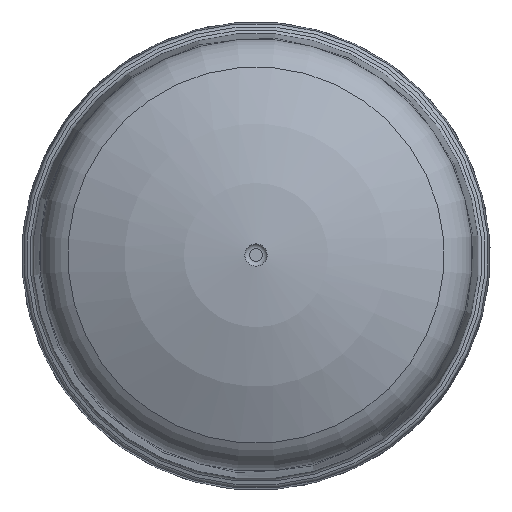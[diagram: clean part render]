
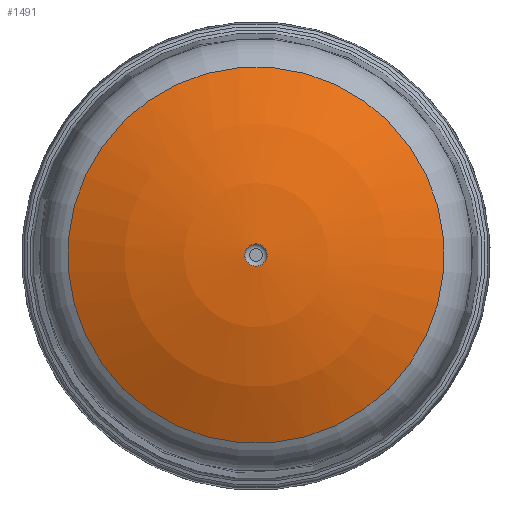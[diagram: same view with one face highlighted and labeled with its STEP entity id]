
A CAD part, top view. The second image highlights one B-rep face of the part: STEP entity #1491.
In plain terms, the highlighted spherical face has radius 85 mm.
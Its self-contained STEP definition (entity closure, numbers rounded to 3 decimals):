
#643=SPHERICAL_SURFACE('',#11293,85.);
#1491=ADVANCED_FACE('',(#2592,#2593),#643,.T.);
#2277=CIRCLE('',#11291,2.25);
#2278=CIRCLE('',#11292,38.185);
#2592=FACE_BOUND('',#3166,.T.);
#2593=FACE_BOUND('',#3167,.T.);
#3166=EDGE_LOOP('',(#5381));
#3167=EDGE_LOOP('',(#5382));
#5381=ORIENTED_EDGE('',*,*,#8585,.T.);
#5382=ORIENTED_EDGE('',*,*,#8586,.F.);
#7241=VERTEX_POINT('',#17349);
#7242=VERTEX_POINT('',#17351);
#8585=EDGE_CURVE('',#7241,#7241,#2277,.T.);
#8586=EDGE_CURVE('',#7242,#7242,#2278,.T.);
#11291=AXIS2_PLACEMENT_3D('',#17348,#13208,#13209);
#11292=AXIS2_PLACEMENT_3D('',#17350,#13210,#13211);
#11293=AXIS2_PLACEMENT_3D('',#17352,#13212,#13213);
#13208=DIRECTION('',(0.,0.,-1.));
#13209=DIRECTION('',(-0.966,0.259,0.));
#13210=DIRECTION('',(0.,0.,-1.));
#13211=DIRECTION('',(0.966,-0.259,0.));
#13212=DIRECTION('',(0.,0.,-1.));
#13213=DIRECTION('',(0.966,-0.259,0.));
#17348=CARTESIAN_POINT('',(400.,0.,110.67));
#17349=CARTESIAN_POINT('',(397.827,0.582,110.67));
#17350=CARTESIAN_POINT('',(400.,0.,101.64));
#17351=CARTESIAN_POINT('',(436.884,-9.883,101.64));
#17352=CARTESIAN_POINT('',(400.,0.,25.7));
